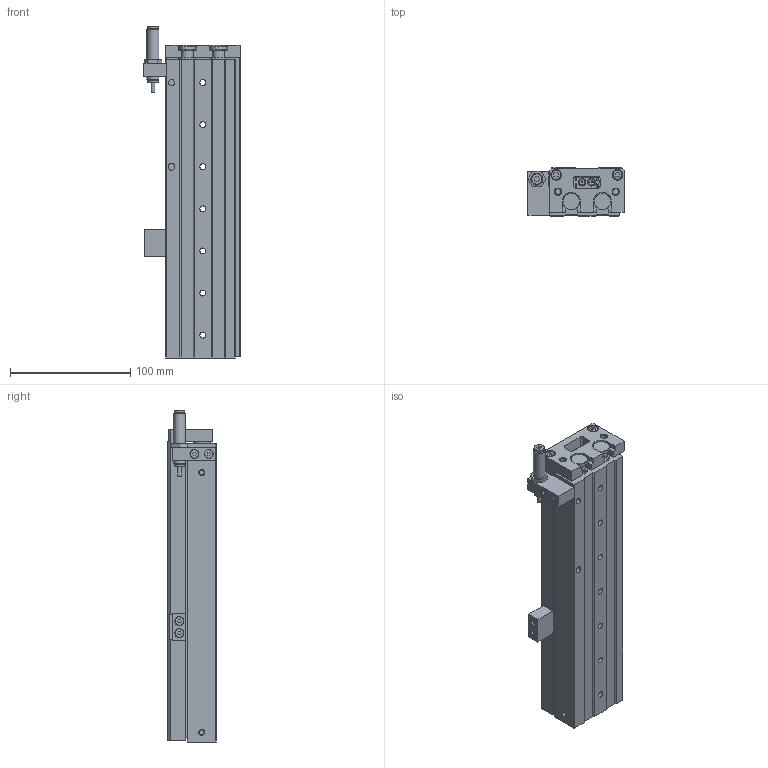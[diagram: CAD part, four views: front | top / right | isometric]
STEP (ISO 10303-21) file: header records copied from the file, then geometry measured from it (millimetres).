
FILE_DESCRIPTION( ( 'STEP AP214' ), '1' );
FILE_NAME( 'C:/Users/EMC02301/Desktop/ELS图纸/ELS16X125-S-BS.stp', '2026-08-05T06:07:06', ( 'License CC BY-ND 4.0' ), ( 'CADENAS' ), ' ', 'PARTsolutions', ' ' );
FILE_SCHEMA( ( 'AUTOMOTIVE_DESIGN { 1 0 10303 214 1 1 1 1 }' ) );
Length unit declared in the file: millimetre
Products named in the file (5): ELS16X125-S-BS(0)(); _ELS16X125-S-BS(HX-07)(HX-07-1)(0-body); _ELS16X125-S-BS(0-rod); _FJ-ELS16-BS; _FJ-ELS16-BS-(BS)
Assembly tree (4 placements, depth 2):
  ELS16X125-S-BS(0)()
    _ELS16X125-S-BS(HX-07)(HX-07-1)(0-body)
    _ELS16X125-S-BS(0-rod)
    _FJ-ELS16-BS
    _FJ-ELS16-BS-(BS)
Bounding box: 80 x 40 x 276 mm (x, y, z)
Volume: 542442 mm3; surface area: 167886.5 mm2
Topology: 4 solids, 4 shells, 531 faces, 1277 edges, 843 vertices
Faces by surface type: plane 390, cylinder 111, cone 28, torus 2
Full cylindrical faces by diameter (mm): 3 x1, 4.134 x16, 4.917 x9, 5 x2, 5.1 x7, 5.5 x8, 6.5 x8, 6.933 x2, 7.267 x2, 7.333 x2, 7.667 x2, 8 x4, 8.5 x2, 8.6 x2, 9 x2, 10 x2, 10.5 x14, 14 x6, 16 x4, 18 x2
Entity records: 18923 total; most frequent: CARTESIAN_POINT 2487, DIRECTION 2459, ORIENTED_EDGE 2258, EDGE_CURVE 1129, LINE 871, VECTOR 871, VERTEX_POINT 822, AXIS2_PLACEMENT_3D 794
